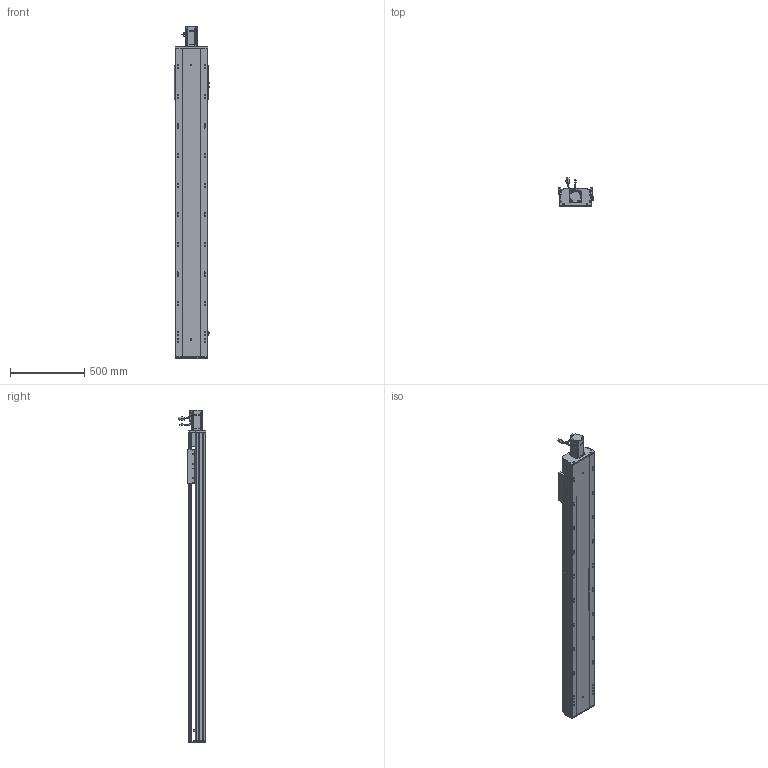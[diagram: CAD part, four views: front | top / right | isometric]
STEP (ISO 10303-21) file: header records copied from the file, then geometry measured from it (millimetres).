
FILE_DESCRIPTION (( 'STEP AP203' ), '1' );
FILE_NAME ('RY220-L2525-800-MK-邧嶺.SLDASM_1650.step', '2022-08-06T08:58:11', ( '' ), ( '' ), 'SwSTEP 2.0', 'SolidWorks 2016', '' );
FILE_SCHEMA (( 'CONFIG_CONTROL_DESIGN' ));
Length unit declared in the file: millimetre
Products named in the file (12): 滅袉蝶18-12; RY220-L2525-800-MK-邧嶺.SLDASM_1650; 覜茼ん672; RY220-800-奻裔啣-MK_1650; RY220半封闭25-32螺母铝滑块; RY220-俋离672覜茼んえ; RY220綴裔啣; 滅袉蝶18-15; RY220电机支撑座FK20（PCD90M6）; RY220菁釱MK-800-邧嶺_1650; RY220ヶ裔啣; 怢湛750W_ECMA-CX0807ES
Assembly tree (15 placements, depth 2):
  RY220-L2525-800-MK-邧嶺.SLDASM_1650
    RY220菁釱MK-800-邧嶺_1650
    RY220电机支撑座FK20（PCD90M6）
    怢湛750W_ECMA-CX0807ES
    滅袉蝶18-12  x2
    RY220ヶ裔啣
    RY220綴裔啣
    覜茼ん672  x3
    RY220半封闭25-32螺母铝滑块
    RY220-800-奻裔啣-MK_1650
    RY220-俋离672覜茼んえ
    滅袉蝶18-15  x2
Bounding box: 238.7 x 187.27 x 2240.3 mm (x, y, z)
Volume: 16752618.6 mm3; surface area: 4867222.9 mm2
Topology: 16 solids, 16 shells, 2370 faces, 6582 edges, 4134 vertices
Faces by surface type: cylinder 1100, plane 915, cone 293, bspline 36, sphere 16, torus 10
Entity records: 78184 total; most frequent: CARTESIAN_POINT 22125, ORIENTED_EDGE 11616, DIRECTION 11087, EDGE_CURVE 5808, AXIS2_PLACEMENT_3D 3939, VERTEX_POINT 3790, LINE 3209, VECTOR 3209
